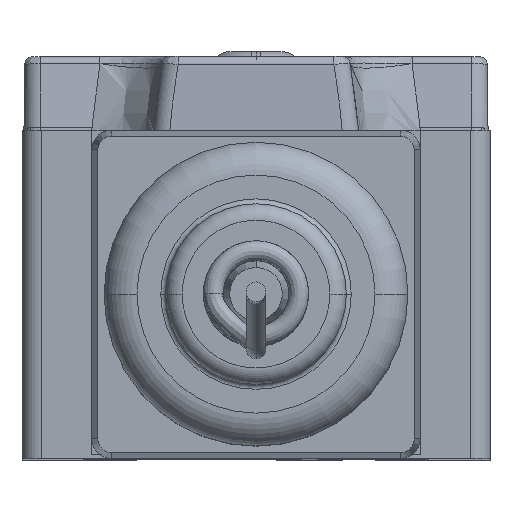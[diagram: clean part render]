
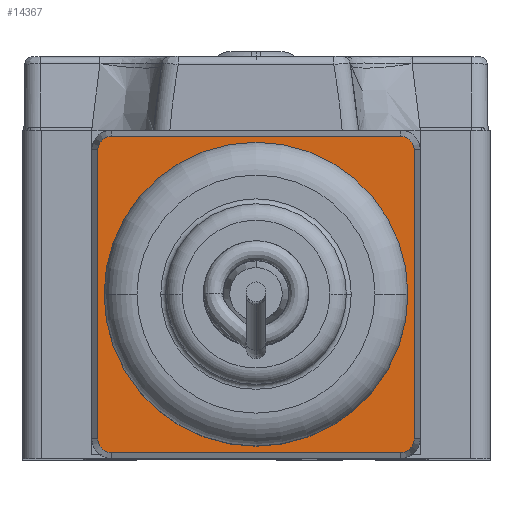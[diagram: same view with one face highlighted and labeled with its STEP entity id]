
A CAD part, top view. The second image highlights one B-rep face of the part: STEP entity #14367.
In plain terms, the highlighted planar face has unit normal (0, 0, 1).
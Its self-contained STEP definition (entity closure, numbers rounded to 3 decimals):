
#3624=DIRECTION('',(0.,-1.,0.));
#3625=VECTOR('',#3624,17.6);
#3626=CARTESIAN_POINT('',(9.632,18.8,3.5));
#3627=LINE('',#3626,#3625);
#5416=DIRECTION('',(0.,1.,0.));
#5417=VECTOR('',#5416,17.6);
#5418=CARTESIAN_POINT('',(-9.632,1.2,3.5));
#5419=LINE('',#5418,#5417);
#5488=DIRECTION('',(1.,0.,0.));
#5489=VECTOR('',#5488,17.6);
#5490=CARTESIAN_POINT('',(-8.8,19.632,3.5));
#5491=LINE('',#5490,#5489);
#5492=CARTESIAN_POINT('',(8.8,18.8,3.5));
#5493=DIRECTION('',(0.,0.,1.));
#5494=DIRECTION('',(1.,0.,0.));
#5495=AXIS2_PLACEMENT_3D('',#5492,#5493,#5494);
#5497=CARTESIAN_POINT('',(8.8,1.2,3.5));
#5498=DIRECTION('',(0.,0.,1.));
#5499=DIRECTION('',(0.,-1.,0.));
#5500=AXIS2_PLACEMENT_3D('',#5497,#5498,#5499);
#5502=CARTESIAN_POINT('',(-8.8,1.2,3.5));
#5503=DIRECTION('',(0.,0.,1.));
#5504=DIRECTION('',(-1.,0.,0.));
#5505=AXIS2_PLACEMENT_3D('',#5502,#5503,#5504);
#5507=CARTESIAN_POINT('',(-8.8,18.8,3.5));
#5508=DIRECTION('',(0.,0.,1.));
#5509=DIRECTION('',(0.,1.,0.));
#5510=AXIS2_PLACEMENT_3D('',#5507,#5508,#5509);
#5512=CARTESIAN_POINT('',(0.,10.,3.5));
#5513=DIRECTION('',(0.,0.,-1.));
#5514=DIRECTION('',(1.,0.,0.));
#5515=AXIS2_PLACEMENT_3D('',#5512,#5513,#5514);
#5517=CARTESIAN_POINT('',(0.,10.,3.5));
#5518=DIRECTION('',(0.,0.,-1.));
#5519=DIRECTION('',(-1.,0.,0.));
#5520=AXIS2_PLACEMENT_3D('',#5517,#5518,#5519);
#5534=DIRECTION('',(-1.,0.,0.));
#5535=VECTOR('',#5534,17.6);
#5536=CARTESIAN_POINT('',(8.8,0.368,3.5));
#5537=LINE('',#5536,#5535);
#6538=CARTESIAN_POINT('',(9.632,18.8,3.5));
#6539=CARTESIAN_POINT('',(8.8,19.632,3.5));
#6540=VERTEX_POINT('',#6538);
#6541=VERTEX_POINT('',#6539);
#6542=CARTESIAN_POINT('',(9.632,1.2,3.5));
#6543=VERTEX_POINT('',#6542);
#6544=CARTESIAN_POINT('',(8.8,0.368,3.5));
#6545=VERTEX_POINT('',#6544);
#6546=CARTESIAN_POINT('',(-8.8,0.368,3.5));
#6547=VERTEX_POINT('',#6546);
#6548=CARTESIAN_POINT('',(-9.632,1.2,3.5));
#6549=VERTEX_POINT('',#6548);
#6550=CARTESIAN_POINT('',(-9.632,18.8,3.5));
#6551=VERTEX_POINT('',#6550);
#6552=CARTESIAN_POINT('',(-8.8,19.632,3.5));
#6553=VERTEX_POINT('',#6552);
#7783=CARTESIAN_POINT('',(9.25,10.,3.5));
#7784=CARTESIAN_POINT('',(-9.25,10.,3.5));
#7785=VERTEX_POINT('',#7783);
#7786=VERTEX_POINT('',#7784);
#14344=CARTESIAN_POINT('',(0.,10.,3.5));
#14345=DIRECTION('',(0.,0.,1.));
#14346=DIRECTION('',(0.,-1.,0.));
#14347=AXIS2_PLACEMENT_3D('',#14344,#14345,#14346);
#14348=PLANE('',#14347);
#14349=ORIENTED_EDGE('',*,*,#11911,.F.);
#14350=ORIENTED_EDGE('',*,*,#11927,.T.);
#14352=ORIENTED_EDGE('',*,*,#14351,.F.);
#14354=ORIENTED_EDGE('',*,*,#14353,.T.);
#14355=ORIENTED_EDGE('',*,*,#14226,.F.);
#14356=ORIENTED_EDGE('',*,*,#14243,.T.);
#14357=ORIENTED_EDGE('',*,*,#14325,.F.);
#14358=ORIENTED_EDGE('',*,*,#14338,.T.);
#14359=EDGE_LOOP('',(#14349,#14350,#14352,#14354,#14355,#14356,#14357,#14358));
#14360=FACE_OUTER_BOUND('',#14359,.F.);
#14362=ORIENTED_EDGE('',*,*,#14361,.F.);
#14364=ORIENTED_EDGE('',*,*,#14363,.F.);
#14365=EDGE_LOOP('',(#14362,#14364));
#14366=FACE_BOUND('',#14365,.F.);
#14367=ADVANCED_FACE('',(#14360,#14366),#14348,.T.);
#5496=CIRCLE('',#5495,0.832);
#5501=CIRCLE('',#5500,0.832);
#5506=CIRCLE('',#5505,0.832);
#5511=CIRCLE('',#5510,0.832);
#5516=CIRCLE('',#5515,9.25);
#5521=CIRCLE('',#5520,9.25);
#11911=EDGE_CURVE('',#6540,#6541,#5496,.T.);
#11927=EDGE_CURVE('',#6540,#6543,#3627,.T.);
#14226=EDGE_CURVE('',#6549,#6547,#5506,.T.);
#14243=EDGE_CURVE('',#6549,#6551,#5419,.T.);
#14325=EDGE_CURVE('',#6553,#6551,#5511,.T.);
#14338=EDGE_CURVE('',#6553,#6541,#5491,.T.);
#14351=EDGE_CURVE('',#6545,#6543,#5501,.T.);
#14353=EDGE_CURVE('',#6545,#6547,#5537,.T.);
#14361=EDGE_CURVE('',#7785,#7786,#5516,.T.);
#14363=EDGE_CURVE('',#7786,#7785,#5521,.T.);
